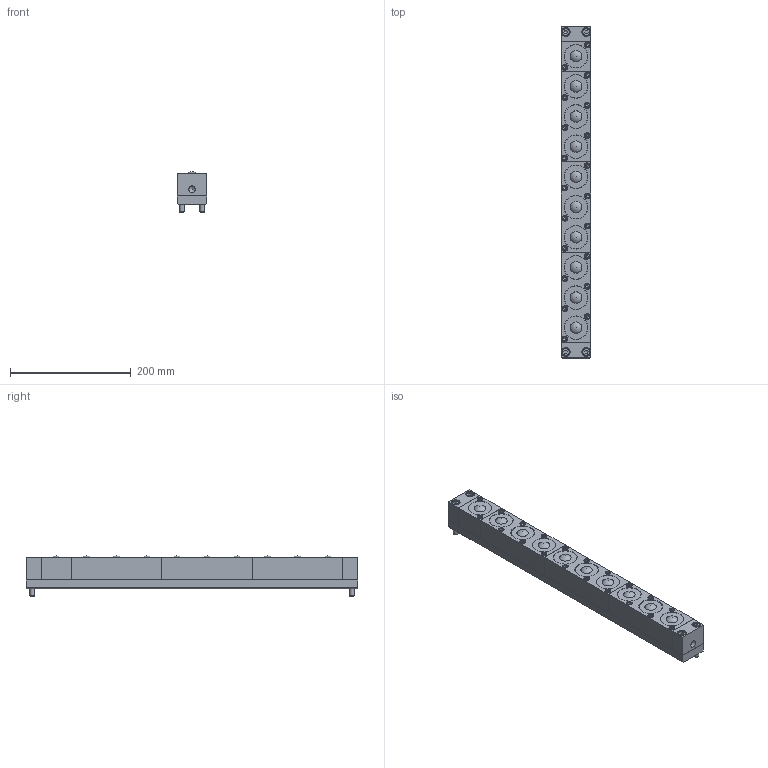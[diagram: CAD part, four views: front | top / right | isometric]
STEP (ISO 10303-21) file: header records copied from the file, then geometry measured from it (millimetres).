
FILE_DESCRIPTION(/* description */ (''),/* implementation_level */ '2;1');
FILE_NAME(/* name */ 'Z:\34-Tei\01-web 3Dデータ\41-ISR-50S型\ISR-50S-550-A.stp',/* time_stamp */ '2015-01-16T09:35:07+09:00',/* author */ ('yamaki'),/* organization */ (''),/* preprocessor_version */ 'ST-DEVELOPER v15.6',/* originating_system */ 'Autodesk Inventor 2015',/* authorisation */ '');
FILE_SCHEMA (('AUTOMOTIVE_DESIGN { 1 0 10303 214 3 1 1 }'));
Length unit declared in the file: millimetre
Products named in the file (6): 4200AT-01-550; 六角穴付きボルト-M8x55; 4200AT-02; 4200AT-00; 4200AT-03; ISR-50S
Bounding box: 49.5 x 550 x 67 mm (x, y, z)
Volume: 1338027.6 mm3; surface area: 313994.7 mm2
Topology: 17 solids, 17 shells, 536 faces, 1115 edges, 714 vertices
Faces by surface type: plane 351, cylinder 103, cone 46, torus 26, sphere 10
Full cylindrical faces by diameter (mm): 8 x2, 8.5 x20, 9 x2, 9.5 x20, 10.5 x1, 13 x4, 14.5 x4, 31.7 x10, 38.5 x10, 39 x10, 42 x20
Entity records: 6006 total; most frequent: CARTESIAN_POINT 1077, DIRECTION 964, ORIENTED_EDGE 834, EDGE_CURVE 417, AXIS2_PLACEMENT_3D 348, EDGE_LOOP 336, VERTEX_POINT 299, LINE 268
